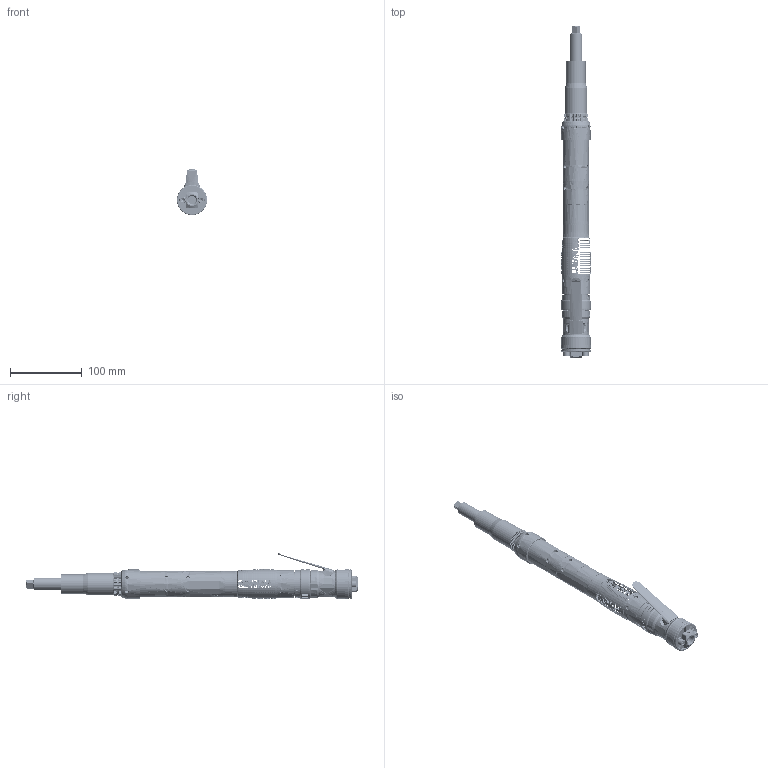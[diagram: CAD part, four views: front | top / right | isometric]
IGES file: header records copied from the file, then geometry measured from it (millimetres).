
Global section: file name: C:\Documents and Settings\jyoung\Desktop\QA4ASLS020NP41S06.igs; native system: Unigraphics Version X V2.0; preprocessor: Unigraphics NX IGES V2.0; date: 20051007.080246; units: millimetre
Bounding box: 42 x 462.94 x 64.44 mm (x, y, z)
Surface area: 89527.2 mm2 (no closed solid volume)
Topology: 0 solids, 1 shells, 4600 faces, 38565 edges, 38396 vertices
Faces by surface type: extrusion 2087, revolution 1788, bspline 725
